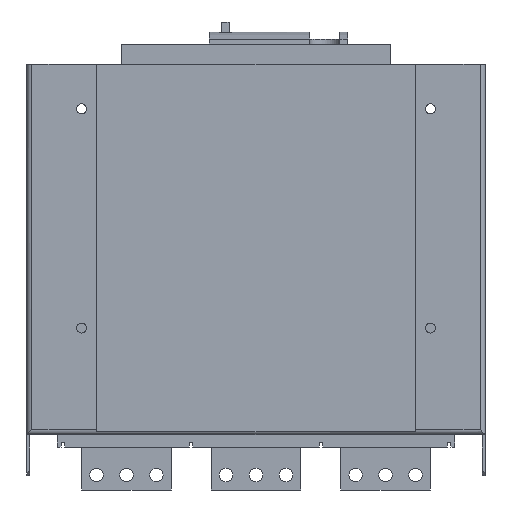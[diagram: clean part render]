
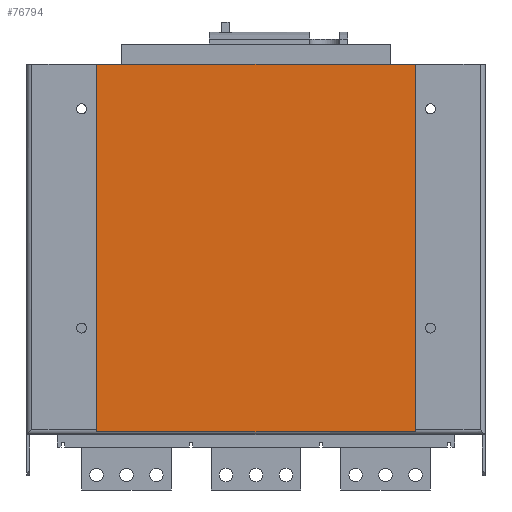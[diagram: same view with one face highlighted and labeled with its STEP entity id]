
A CAD part, front view. The second image highlights one B-rep face of the part: STEP entity #76794.
In plain terms, the highlighted planar face has unit normal (0, -1, 0).
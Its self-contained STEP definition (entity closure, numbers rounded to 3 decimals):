
#15774 = VERTEX_POINT ( 'NONE', #133016 ) ;
#15778 = EDGE_CURVE ( 'NONE', #15774, #15780, #133125, .T. ) ;
#15780 = VERTEX_POINT ( 'NONE', #133120 ) ;
#27475 = DIRECTION ( 'NONE',  ( -1., 0., 0. ) ) ;
#27476 = VECTOR ( 'NONE', #27475, 1000. ) ;
#27477 = CARTESIAN_POINT ( 'NONE',  ( -219.072, -240.69, -155.25 ) ) ;
#27478 = LINE ( 'NONE', #27477, #27476 ) ;
#27554 = CARTESIAN_POINT ( 'NONE',  ( 100.928, -240.69, -155.25 ) ) ;
#27582 = CARTESIAN_POINT ( 'NONE',  ( -219.072, -240.69, -155.25 ) ) ;
#27587 = DIRECTION ( 'NONE',  ( 0., 0., 1. ) ) ;
#27588 = VECTOR ( 'NONE', #27587, 1000. ) ;
#27589 = CARTESIAN_POINT ( 'NONE',  ( -219.072, -240.69, -155.25 ) ) ;
#27590 = LINE ( 'NONE', #27589, #27588 ) ;
#27664 = FACE_OUTER_BOUND ( 'NONE', #76799, .T. ) ;
#27692 = DIRECTION ( 'NONE',  ( 0., 0., -1. ) ) ;
#27693 = VECTOR ( 'NONE', #27692, 1000. ) ;
#27694 = CARTESIAN_POINT ( 'NONE',  ( 100.928, -240.69, -155.25 ) ) ;
#27695 = LINE ( 'NONE', #27694, #27693 ) ;
#27700 = DIRECTION ( 'NONE',  ( -1., 0., 0. ) ) ;
#27701 = DIRECTION ( 'NONE',  ( 0., 1., 0. ) ) ;
#27702 = CARTESIAN_POINT ( 'NONE',  ( -219.072, -240.69, 213.75 ) ) ;
#27703 = AXIS2_PLACEMENT_3D ( 'NONE', #27702, #27701, #27700 ) ;
#27704 = PLANE ( 'NONE',  #27703 ) ;
#76681 = EDGE_CURVE ( 'NONE', #76717, #76739, #27478, .T. ) ;
#76717 = VERTEX_POINT ( 'NONE', #27554 ) ;
#76733 = EDGE_CURVE ( 'NONE', #76739, #15774, #27590, .T. ) ;
#76739 = VERTEX_POINT ( 'NONE', #27582 ) ;
#76790 = ORIENTED_EDGE ( 'NONE', *, *, #76733, .F. ) ;
#76794 = ADVANCED_FACE ( 'NONE', ( #27664 ), #27704, .F. ) ;
#76798 = EDGE_CURVE ( 'NONE', #15780, #76717, #27695, .T. ) ;
#76799 = EDGE_LOOP ( 'NONE', ( #76790, #76902, #76932, #76922 ) ) ;
#76902 = ORIENTED_EDGE ( 'NONE', *, *, #76681, .F. ) ;
#76922 = ORIENTED_EDGE ( 'NONE', *, *, #15778, .F. ) ;
#76932 = ORIENTED_EDGE ( 'NONE', *, *, #76798, .F. ) ;
#133016 = CARTESIAN_POINT ( 'NONE',  ( -219.072, -240.69, 213.75 ) ) ;
#133120 = CARTESIAN_POINT ( 'NONE',  ( 100.928, -240.69, 213.75 ) ) ;
#133121 = DIRECTION ( 'NONE',  ( 1., 0., 0. ) ) ;
#133122 = VECTOR ( 'NONE', #133121, 1000. ) ;
#133123 = CARTESIAN_POINT ( 'NONE',  ( -219.072, -240.69, 213.75 ) ) ;
#133125 = LINE ( 'NONE', #133123, #133122 ) ;
